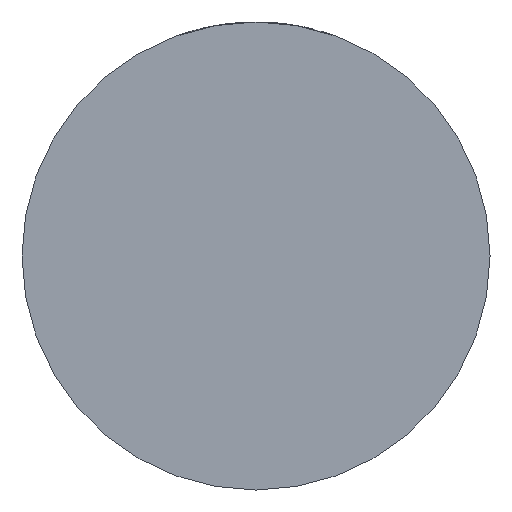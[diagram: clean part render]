
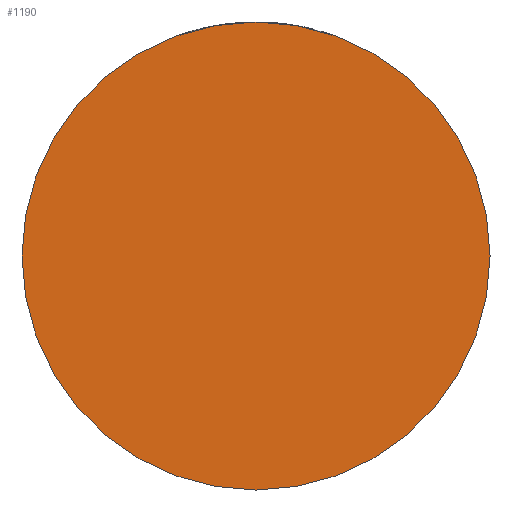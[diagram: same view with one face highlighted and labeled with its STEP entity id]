
A CAD part, front view. The second image highlights one B-rep face of the part: STEP entity #1190.
In plain terms, the highlighted planar face has unit normal (0, -1, 0).
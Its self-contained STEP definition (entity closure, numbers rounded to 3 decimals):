
#219 = CIRCLE ( 'NONE', #3980, 29.5 ) ;
#287 = DIRECTION ( 'NONE',  ( 0., -1., 0. ) ) ;
#533 = AXIS2_PLACEMENT_3D ( 'NONE', #1319, #2672, #2333 ) ;
#549 = CARTESIAN_POINT ( 'NONE',  ( 0., -25., 0. ) ) ;
#940 = DIRECTION ( 'NONE',  ( 1., 0., 0. ) ) ;
#968 = CARTESIAN_POINT ( 'NONE',  ( 29.5, -25., 0. ) ) ;
#1178 = CIRCLE ( 'NONE', #533, 29.5 ) ;
#1190 = ADVANCED_FACE ( 'NONE', ( #1655 ), #2633, .T. ) ;
#1278 = CARTESIAN_POINT ( 'NONE',  ( 0., -25., 0. ) ) ;
#1319 = CARTESIAN_POINT ( 'NONE',  ( 0., -25., 0. ) ) ;
#1441 = EDGE_CURVE ( 'NONE', #2094, #2784, #219, .T. ) ;
#1480 = ORIENTED_EDGE ( 'NONE', *, *, #1441, .T. ) ;
#1655 = FACE_OUTER_BOUND ( 'NONE', #2580, .T. ) ;
#2035 = AXIS2_PLACEMENT_3D ( 'NONE', #549, #287, #3940 ) ;
#2094 = VERTEX_POINT ( 'NONE', #2320 ) ;
#2320 = CARTESIAN_POINT ( 'NONE',  ( -29.5, -25., 0. ) ) ;
#2333 = DIRECTION ( 'NONE',  ( 1., 0., 0. ) ) ;
#2580 = EDGE_LOOP ( 'NONE', ( #1480, #3970 ) ) ;
#2626 = DIRECTION ( 'NONE',  ( 0., -1., 0. ) ) ;
#2633 = PLANE ( 'NONE',  #2035 ) ;
#2672 = DIRECTION ( 'NONE',  ( 0., -1., 0. ) ) ;
#2784 = VERTEX_POINT ( 'NONE', #968 ) ;
#3940 = DIRECTION ( 'NONE',  ( 1., 0., 0. ) ) ;
#3970 = ORIENTED_EDGE ( 'NONE', *, *, #4139, .T. ) ;
#3980 = AXIS2_PLACEMENT_3D ( 'NONE', #1278, #2626, #940 ) ;
#4139 = EDGE_CURVE ( 'NONE', #2784, #2094, #1178, .T. ) ;
